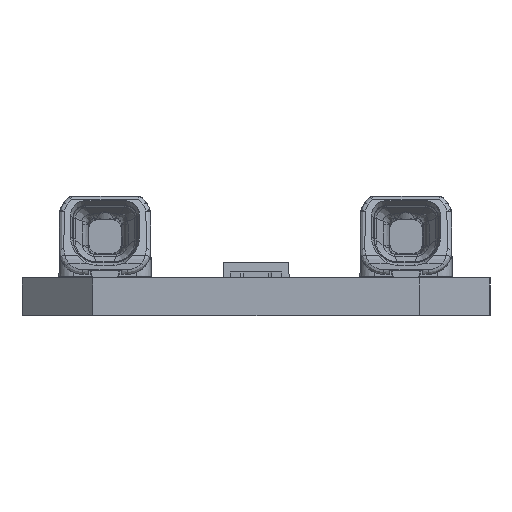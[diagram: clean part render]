
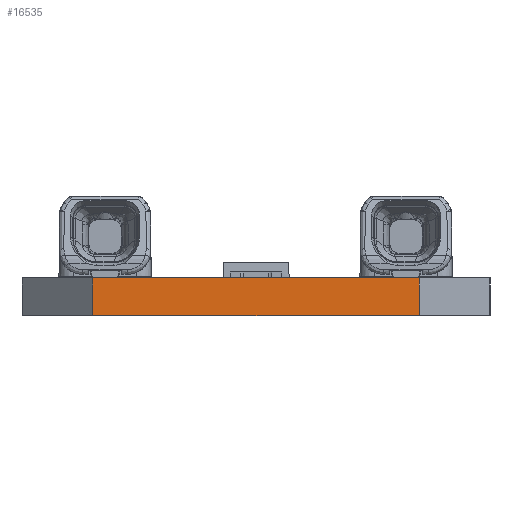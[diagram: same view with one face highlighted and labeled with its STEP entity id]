
A CAD part, left-side view. The second image highlights one B-rep face of the part: STEP entity #16535.
In plain terms, the highlighted planar face has unit normal (1, 0, 0).
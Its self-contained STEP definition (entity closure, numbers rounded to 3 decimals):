
#14173=DIRECTION('',(0.,0.,-1.));
#14174=VECTOR('',#14173,1.6);
#14175=CARTESIAN_POINT('',(-139.5,-6.9,1.6));
#14176=LINE('',#14175,#14174);
#14180=DIRECTION('',(0.,1.,0.));
#14181=VECTOR('',#14180,13.8);
#14182=CARTESIAN_POINT('',(-139.5,-6.9,1.6));
#14183=LINE('',#14182,#14181);
#14187=DIRECTION('',(0.,0.,-1.));
#14188=VECTOR('',#14187,1.6);
#14189=CARTESIAN_POINT('',(-139.5,6.9,1.6));
#14190=LINE('',#14189,#14188);
#14437=DIRECTION('',(0.,1.,0.));
#14438=VECTOR('',#14437,13.8);
#14439=CARTESIAN_POINT('',(-139.5,-6.9,0.));
#14440=LINE('',#14439,#14438);
#15760=CARTESIAN_POINT('',(-139.5,6.9,0.));
#15761=VERTEX_POINT('',#15760);
#15762=CARTESIAN_POINT('',(-139.5,6.9,1.6));
#15763=VERTEX_POINT('',#15762);
#15764=CARTESIAN_POINT('',(-139.5,-6.9,0.));
#15765=VERTEX_POINT('',#15764);
#15766=CARTESIAN_POINT('',(-139.5,-6.9,1.6));
#15767=VERTEX_POINT('',#15766);
#16522=CARTESIAN_POINT('',(-139.5,0.,0.8));
#16523=DIRECTION('',(1.,0.,0.));
#16524=DIRECTION('',(0.,0.,-1.));
#16525=AXIS2_PLACEMENT_3D('',#16522,#16523,#16524);
#16526=PLANE('',#16525);
#16527=ORIENTED_EDGE('',*,*,#15989,.T.);
#16529=ORIENTED_EDGE('',*,*,#16528,.T.);
#16531=ORIENTED_EDGE('',*,*,#16530,.F.);
#16532=ORIENTED_EDGE('',*,*,#16514,.F.);
#16533=EDGE_LOOP('',(#16527,#16529,#16531,#16532));
#16534=FACE_OUTER_BOUND('',#16533,.F.);
#15989=EDGE_CURVE('',#15767,#15763,#14183,.T.);
#16514=EDGE_CURVE('',#15767,#15765,#14176,.T.);
#16528=EDGE_CURVE('',#15763,#15761,#14190,.T.);
#16530=EDGE_CURVE('',#15765,#15761,#14440,.T.);
#16535=ADVANCED_FACE('',(#16534),#16526,.T.);
